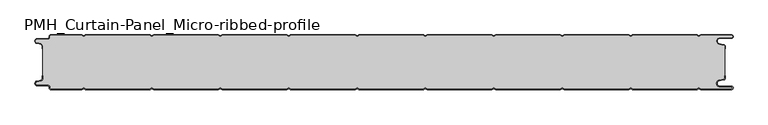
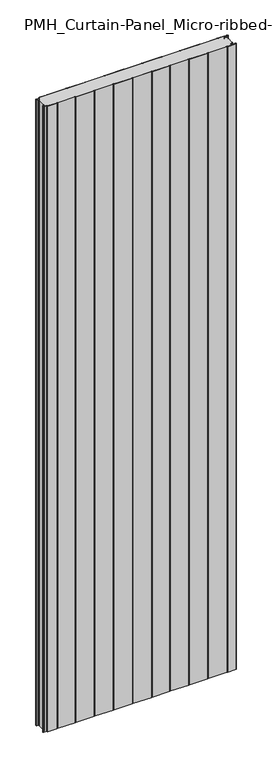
"""IFC4 building model written with IfcOpenShell, lengths in millimetres: plate geometry, PMH_Curtain-Panel_Micro-ribbed-profile : ACH_PMH_Acoustic-Sectioning-Panel_80M."""

from ifc_helpers import new_model, si_unit, point, frame_2d, origin, origin_with_axes, place, context, project, spatial, polyline, circle_curve, trimmed, segment, composite_curve, outline, extrude, source, transform, mapped, element, save


def pmh_curtain_panel_micro_ribbed_profile_d39909f0(model_context):
    return source(origin(), model_context, "Body", "SweptSolid", [
        extrude(outline(composite_curve([segment(polyline([(-500.0, 15.878557), (-500.0, 20.0), (-499.2, 20.0), (-499.2, 15.878557)]), True, "CONTINUOUS"), segment(trimmed(circle_curve(frame_2d((-502.0, 15.878557)), 2.8), [point((-499.2, 15.878557))], [point((-501.370137, 13.1503208))], False, "CARTESIAN"), True, "CONTINUOUS"), segment(polyline([(-501.370137, 13.1503208), (-507.529863, 11.728236)]), True, "CONTINUOUS"), segment(trimmed(circle_curve(frame_2d((-506.9, 9.0)), 2.8), [point((-507.529863, 11.728236))], [point((-506.9, 6.2))], True, "CARTESIAN"), True, "CONTINUOUS"), segment(polyline([(-506.9, 6.2), (-491.4, 6.2)]), True, "CONTINUOUS"), segment(trimmed(circle_curve(frame_2d((-491.4, 3.4)), 2.8), [point((-491.4, 6.2))], [point((-488.6, 3.4))], False, "CARTESIAN"), True, "CONTINUOUS"), segment(polyline([(-488.6, 3.4), (-488.6, 2.0)]), True, "CONTINUOUS"), segment(trimmed(circle_curve(frame_2d((-487.4, 2.0)), 1.2), [point((-488.6, 2.0))], [point((-487.4, 0.8))], True, "CARTESIAN"), True, "CONTINUOUS"), segment(polyline([(-487.4, 0.8), (-442.3143588, 0.8), (-439.4, 2.482606), (-436.4856412, 0.8), (-342.3143588, 0.8), (-339.4, 2.482606), (-336.4856412, 0.8), (-242.3143588, 0.8), (-239.4, 2.482606), (-236.4856412, 0.8), (-142.3143588, 0.8), (-139.4, 2.482606), (-136.4856412, 0.8), (-42.3143588, 0.8), (-39.4, 2.482606), (-36.4856412, 0.8), (57.6856412, 0.8), (60.6, 2.482606), (63.5143588, 0.8), (157.6856412, 0.8), (160.6, 2.482606), (163.5143588, 0.8), (257.6856412, 0.8), (260.6, 2.482606), (263.5143588, 0.8), (357.6856412, 0.8), (360.6, 2.482606), (363.5143588, 0.8), (457.6856412, 0.8), (460.6, 2.482606), (463.5143588, 0.8), (508.1, 0.8)]), True, "CONTINUOUS"), segment(trimmed(circle_curve(frame_2d((508.1, 2.5)), 1.7), [point((508.1, 0.8))], [point((508.1, 4.2))], True, "CARTESIAN"), True, "CONTINUOUS"), segment(polyline([(508.1, 4.2), (491.1, 4.2)]), True, "CONTINUOUS"), segment(trimmed(circle_curve(frame_2d((491.1, 9.0)), 4.8), [point((491.1, 4.2))], [point((490.2664884, 13.7270771))], False, "CARTESIAN"), True, "CONTINUOUS"), segment(polyline([(490.2664884, 13.7270771), (496.7125669, 14.8636953)]), True, "CONTINUOUS"), segment(trimmed(circle_curve(frame_2d((496.4, 16.6363492)), 1.8), [point((496.7125669, 14.8636953))], [point((498.2, 16.6363492))], True, "CARTESIAN"), True, "CONTINUOUS"), segment(polyline([(498.2, 16.6363492), (498.2, 20.0), (499.0, 20.0), (499.0, 16.6363492)]), True, "CONTINUOUS"), segment(trimmed(circle_curve(frame_2d((496.4, 16.6363492)), 2.6), [point((499.0, 16.6363492))], [point((496.8514855, 14.0758491))], False, "CARTESIAN"), True, "CONTINUOUS"), segment(polyline([(496.8514855, 14.0758491), (490.405407, 12.939231)]), True, "CONTINUOUS"), segment(trimmed(circle_curve(frame_2d((491.1, 9.0)), 4.0), [point((490.405407, 12.939231))], [point((491.1, 5.0))], True, "CARTESIAN"), True, "CONTINUOUS"), segment(polyline([(491.1, 5.0), (508.1, 5.0)]), True, "CONTINUOUS"), segment(trimmed(circle_curve(frame_2d((508.1, 2.5)), 2.5), [point((508.1, 5.0))], [point((508.1, 0.0))], False, "CARTESIAN"), True, "CONTINUOUS"), segment(polyline([(508.1, 0.0), (463.2999995, 0.0), (460.6, 1.5588455), (457.9000005, 0.0), (363.2999995, 0.0), (360.6, 1.5588455), (357.9000005, 0.0), (263.2999995, 0.0), (260.6, 1.5588455), (257.9000005, 0.0), (163.2999995, 0.0), (160.6, 1.5588455), (157.9000005, 0.0), (63.2999995, 0.0), (60.6, 1.5588455), (57.9000005, 0.0), (-36.7000005, 0.0), (-39.4, 1.5588455), (-42.0999995, 0.0), (-136.7000005, 0.0), (-139.4, 1.5588455), (-142.0999995, 0.0), (-236.7000005, 0.0), (-239.4, 1.5588455), (-242.0999995, 0.0), (-336.7000005, 0.0), (-339.4, 1.5588455), (-342.0999995, 0.0), (-436.7000005, 0.0), (-439.4, 1.5588455), (-442.0999995, 0.0), (-487.4, 0.0)]), True, "CONTINUOUS"), segment(trimmed(circle_curve(frame_2d((-487.4, 2.0)), 2.0), [point((-487.4, 0.0))], [point((-489.4, 2.0))], False, "CARTESIAN"), True, "CONTINUOUS"), segment(polyline([(-489.4, 2.0), (-489.4, 3.4)]), True, "CONTINUOUS"), segment(trimmed(circle_curve(frame_2d((-491.4, 3.4)), 2.0), [point((-489.4, 3.4))], [point((-491.4, 5.4))], True, "CARTESIAN"), True, "CONTINUOUS"), segment(polyline([(-491.4, 5.4), (-506.9, 5.4)]), True, "CONTINUOUS"), segment(trimmed(circle_curve(frame_2d((-506.9, 9.0)), 3.6), [point((-506.9, 5.4))], [point((-507.7098239, 12.5077322))], False, "CARTESIAN"), True, "CONTINUOUS"), segment(polyline([(-507.7098239, 12.5077322), (-501.5500979, 13.929817)]), True, "CONTINUOUS"), segment(trimmed(circle_curve(frame_2d((-502.0, 15.878557)), 2.0), [point((-501.5500979, 13.929817))], [point((-500.0, 15.878557))], True, "CARTESIAN"), True, "CONTINUOUS")], self_intersect=False)), origin_with_axes(), (0.0, 0.0, 1.0), 3500.0),
        extrude(outline(composite_curve([segment(trimmed(circle_curve(frame_2d((-502.0, 64.1214426)), 2.8), [point((-499.2, 64.1214426))], [point((-501.370137, 66.8496788))], True, "CARTESIAN"), True, "CONTINUOUS"), segment(polyline([(-501.370137, 66.8496788), (-507.5298631, 68.2717638)]), True, "CONTINUOUS"), segment(trimmed(circle_curve(frame_2d((-506.9, 71.0)), 2.8), [point((-507.5298631, 68.2717638))], [point((-506.9, 73.8))], False, "CARTESIAN"), True, "CONTINUOUS"), segment(polyline([(-506.9, 73.8), (-491.4000001, 73.8)]), True, "CONTINUOUS"), segment(trimmed(circle_curve(frame_2d((-491.4000001, 76.6)), 2.8), [point((-491.4000001, 73.8))], [point((-488.6000001, 76.6))], True, "CARTESIAN"), True, "CONTINUOUS"), segment(polyline([(-488.6000001, 76.6), (-488.6000001, 78.0)]), True, "CONTINUOUS"), segment(trimmed(circle_curve(frame_2d((-487.4000001, 78.0)), 1.2), [point((-488.6000001, 78.0))], [point((-487.4000001, 79.2))], False, "CARTESIAN"), True, "CONTINUOUS"), segment(polyline([(-487.4000001, 79.2), (-442.3143589, 79.2), (-439.4000001, 77.517394), (-436.4856412, 79.2), (-342.3143589, 79.2), (-339.4000001, 77.517394), (-336.4856412, 79.2), (-242.3143589, 79.2), (-239.4000001, 77.517394), (-236.4856412, 79.2), (-142.3143589, 79.2), (-139.4000001, 77.517394), (-136.4856412, 79.2), (-42.3143589, 79.2), (-39.4000001, 77.517394), (-36.4856412, 79.2), (57.6856411, 79.2), (60.5999999, 77.517394), (63.5143588, 79.2), (157.6856411, 79.2), (160.5999999, 77.517394), (163.5143588, 79.2), (257.6856411, 79.2), (260.5999999, 77.517394), (263.5143588, 79.2), (357.6856411, 79.2), (360.5999999, 77.517394), (363.5143588, 79.2), (457.6856411, 79.2), (460.5999999, 77.517394), (463.5143588, 79.2), (508.0999999, 79.2)]), True, "CONTINUOUS"), segment(trimmed(circle_curve(frame_2d((508.0999999, 77.5)), 1.7), [point((508.0999999, 79.2))], [point((508.0999999, 75.8))], False, "CARTESIAN"), True, "CONTINUOUS"), segment(polyline([(508.0999999, 75.8), (491.0999999, 75.8)]), True, "CONTINUOUS"), segment(trimmed(circle_curve(frame_2d((491.0999999, 71.0)), 4.8), [point((491.0999999, 75.8))], [point((490.2664883, 66.2729229))], True, "CARTESIAN"), True, "CONTINUOUS"), segment(polyline([(490.2664883, 66.2729229), (496.7125668, 65.1363047)]), True, "CONTINUOUS"), segment(trimmed(circle_curve(frame_2d((496.3999999, 63.3636508)), 1.8), [point((496.7125668, 65.1363047))], [point((498.1999999, 63.3636508))], False, "CARTESIAN"), True, "CONTINUOUS"), segment(polyline([(498.1999999, 63.3636508), (498.1999999, 16.6363492)]), True, "CONTINUOUS"), segment(trimmed(circle_curve(frame_2d((496.3999999, 16.6363492)), 1.8), [point((498.1999999, 16.6363492))], [point((496.7125668, 14.8636953))], False, "CARTESIAN"), True, "CONTINUOUS"), segment(polyline([(496.7125668, 14.8636953), (490.2664883, 13.7270771)]), True, "CONTINUOUS"), segment(trimmed(circle_curve(frame_2d((491.0999999, 9.0)), 4.8), [point((490.2664883, 13.7270771))], [point((491.0999999, 4.2))], True, "CARTESIAN"), True, "CONTINUOUS"), segment(polyline([(491.0999999, 4.2), (508.0999999, 4.2)]), True, "CONTINUOUS"), segment(trimmed(circle_curve(frame_2d((508.0999999, 2.5)), 1.7), [point((508.0999999, 4.2))], [point((508.0999999, 0.8))], False, "CARTESIAN"), True, "CONTINUOUS"), segment(polyline([(508.0999999, 0.8), (463.5143588, 0.8), (460.5999999, 2.482606), (457.6856411, 0.8), (363.5143588, 0.8), (360.5999999, 2.482606), (357.6856411, 0.8), (263.5143588, 0.8), (260.5999999, 2.482606), (257.6856411, 0.8), (163.5143588, 0.8), (160.5999999, 2.482606), (157.6856411, 0.8), (63.5143588, 0.8), (60.5999999, 2.482606), (57.6856411, 0.8), (-36.4856412, 0.8), (-39.4000001, 2.482606), (-42.3143589, 0.8), (-136.4856412, 0.8), (-139.4000001, 2.482606), (-142.3143589, 0.8), (-236.4856412, 0.8), (-239.4000001, 2.482606), (-242.3143589, 0.8), (-336.4856412, 0.8), (-339.4000001, 2.482606), (-342.3143589, 0.8), (-436.4856412, 0.8), (-439.4000001, 2.482606), (-442.3143589, 0.8), (-487.4000001, 0.8)]), True, "CONTINUOUS"), segment(trimmed(circle_curve(frame_2d((-487.4000001, 2.0)), 1.2), [point((-487.4000001, 0.8))], [point((-488.6000001, 2.0))], False, "CARTESIAN"), True, "CONTINUOUS"), segment(polyline([(-488.6000001, 2.0), (-488.6000001, 3.4)]), True, "CONTINUOUS"), segment(trimmed(circle_curve(frame_2d((-491.4000001, 3.4)), 2.8), [point((-488.6000001, 3.4))], [point((-491.4000001, 6.2))], True, "CARTESIAN"), True, "CONTINUOUS"), segment(polyline([(-491.4000001, 6.2), (-506.9, 6.2)]), True, "CONTINUOUS"), segment(trimmed(circle_curve(frame_2d((-506.9, 9.0)), 2.8), [point((-506.9, 6.2))], [point((-507.5298631, 11.7282362))], False, "CARTESIAN"), True, "CONTINUOUS"), segment(polyline([(-507.5298631, 11.7282362), (-501.370137, 13.1503212)]), True, "CONTINUOUS"), segment(trimmed(circle_curve(frame_2d((-502.0, 15.8785573)), 2.8), [point((-501.370137, 13.1503212))], [point((-499.2, 15.8785573))], True, "CARTESIAN"), True, "CONTINUOUS"), segment(polyline([(-499.2, 15.8785573), (-499.2, 64.1214426)]), True, "CONTINUOUS")], self_intersect=False)), origin_with_axes(), (0.0, 0.0, 1.0), 3500.0),
        extrude(outline(composite_curve([segment(trimmed(circle_curve(frame_2d((-502.0, 64.121443)), 2.0), [point((-500.0, 64.121443))], [point((-501.5500978, 66.0701831))], True, "CARTESIAN"), True, "CONTINUOUS"), segment(polyline([(-501.5500978, 66.0701831), (-507.7098239, 67.492268)]), True, "CONTINUOUS"), segment(trimmed(circle_curve(frame_2d((-506.9, 71.0)), 3.6), [point((-507.7098239, 67.492268))], [point((-506.9, 74.6))], False, "CARTESIAN"), True, "CONTINUOUS"), segment(polyline([(-506.9, 74.6), (-491.4, 74.6)]), True, "CONTINUOUS"), segment(trimmed(circle_curve(frame_2d((-491.4, 76.6)), 2.0), [point((-491.4, 74.6))], [point((-489.4, 76.6))], True, "CARTESIAN"), True, "CONTINUOUS"), segment(polyline([(-489.4, 76.6), (-489.4, 78.0)]), True, "CONTINUOUS"), segment(trimmed(circle_curve(frame_2d((-487.4, 78.0)), 2.0), [point((-489.4, 78.0))], [point((-487.4, 80.0))], False, "CARTESIAN"), True, "CONTINUOUS"), segment(polyline([(-487.4, 80.0), (-442.0999995, 80.0), (-439.4, 78.4411545), (-436.7000005, 80.0), (-342.0999995, 80.0), (-339.4, 78.4411545), (-336.7000005, 80.0), (-242.0999995, 80.0), (-239.4, 78.4411545), (-236.7000005, 80.0), (-142.0999995, 80.0), (-139.4, 78.4411545), (-136.7000005, 80.0), (-42.0999995, 80.0), (-39.4, 78.4411545), (-36.7000005, 80.0), (57.9000005, 80.0), (60.6, 78.4411545), (63.2999995, 80.0), (157.9000005, 80.0), (160.6, 78.4411545), (163.2999995, 80.0), (257.9000005, 80.0), (260.6, 78.4411545), (263.2999995, 80.0), (357.9000005, 80.0), (360.6, 78.4411545), (363.2999995, 80.0), (457.9000005, 80.0), (460.6, 78.4411545), (463.2999995, 80.0), (508.1, 80.0)]), True, "CONTINUOUS"), segment(trimmed(circle_curve(frame_2d((508.1, 77.5)), 2.5), [point((508.1, 80.0))], [point((508.1, 75.0))], False, "CARTESIAN"), True, "CONTINUOUS"), segment(polyline([(508.1, 75.0), (491.1, 75.0)]), True, "CONTINUOUS"), segment(trimmed(circle_curve(frame_2d((491.1, 71.0)), 4.0), [point((491.1, 75.0))], [point((490.405407, 67.060769))], True, "CARTESIAN"), True, "CONTINUOUS"), segment(polyline([(490.405407, 67.060769), (496.8514855, 65.9241509)]), True, "CONTINUOUS"), segment(trimmed(circle_curve(frame_2d((496.4, 63.3636508)), 2.6), [point((496.8514855, 65.9241509))], [point((499.0, 63.3636508))], False, "CARTESIAN"), True, "CONTINUOUS"), segment(polyline([(499.0, 63.3636508), (499.0, 60.0), (498.2, 60.0), (498.2, 63.3636508)]), True, "CONTINUOUS"), segment(trimmed(circle_curve(frame_2d((496.4, 63.3636508)), 1.8), [point((498.2, 63.3636508))], [point((496.7125669, 65.1363047))], True, "CARTESIAN"), True, "CONTINUOUS"), segment(polyline([(496.7125669, 65.1363047), (490.2664884, 66.2729228)]), True, "CONTINUOUS"), segment(trimmed(circle_curve(frame_2d((491.1, 71.0)), 4.8), [point((490.2664884, 66.2729228))], [point((491.1, 75.8))], False, "CARTESIAN"), True, "CONTINUOUS"), segment(polyline([(491.1, 75.8), (508.1, 75.8)]), True, "CONTINUOUS"), segment(trimmed(circle_curve(frame_2d((508.1, 77.5)), 1.7), [point((508.1, 75.8))], [point((508.1, 79.2))], True, "CARTESIAN"), True, "CONTINUOUS"), segment(polyline([(508.1, 79.2), (463.5143588, 79.2), (460.6, 77.517394), (457.6856412, 79.2), (363.5143588, 79.2), (360.6, 77.517394), (357.6856412, 79.2), (263.5143588, 79.2), (260.6, 77.517394), (257.6856412, 79.2), (163.5143588, 79.2), (160.6, 77.517394), (157.6856412, 79.2), (63.5143588, 79.2), (60.6, 77.517394), (57.6856412, 79.2), (-36.4856412, 79.2), (-39.4, 77.517394), (-42.3143588, 79.2), (-136.4856412, 79.2), (-139.4, 77.517394), (-142.3143588, 79.2), (-236.4856412, 79.2), (-239.4, 77.517394), (-242.3143588, 79.2), (-336.4856412, 79.2), (-339.4, 77.517394), (-342.3143588, 79.2), (-436.4856412, 79.2), (-439.4, 77.517394), (-442.3143588, 79.2), (-487.4, 79.2)]), True, "CONTINUOUS"), segment(trimmed(circle_curve(frame_2d((-487.4, 78.0)), 1.2), [point((-487.4, 79.2))], [point((-488.6, 78.0))], True, "CARTESIAN"), True, "CONTINUOUS"), segment(polyline([(-488.6, 78.0), (-488.6, 76.6)]), True, "CONTINUOUS"), segment(trimmed(circle_curve(frame_2d((-491.4, 76.6)), 2.8), [point((-488.6, 76.6))], [point((-491.4, 73.8))], False, "CARTESIAN"), True, "CONTINUOUS"), segment(polyline([(-491.4, 73.8), (-506.9, 73.8)]), True, "CONTINUOUS"), segment(trimmed(circle_curve(frame_2d((-506.9, 71.0)), 2.8), [point((-506.9, 73.8))], [point((-507.529863, 68.2717638))], True, "CARTESIAN"), True, "CONTINUOUS"), segment(polyline([(-507.529863, 68.2717638), (-501.370137, 66.849679)]), True, "CONTINUOUS"), segment(trimmed(circle_curve(frame_2d((-502.0, 64.121443)), 2.8), [point((-501.370137, 66.849679))], [point((-499.2, 64.121443))], False, "CARTESIAN"), True, "CONTINUOUS"), segment(polyline([(-499.2, 64.121443), (-499.2, 60.0), (-500.0, 60.0), (-500.0, 64.121443)]), True, "CONTINUOUS")], self_intersect=False)), origin_with_axes(), (0.0, 0.0, 1.0), 3500.0),
    ])


if __name__ == "__main__":
    model = new_model("IFC4")
    model_context = context("Model", 3, world=origin())
    ifc_project = project(units=[si_unit("LENGTHUNIT", "METRE", prefix="MILLI")], contexts=[model_context])
    site = spatial("IfcSite", under=ifc_project)
    building = spatial("IfcBuilding", under=site)
    placement = place(None, origin())
    pmh_curtain_panel_micro_ribbed_profile_shape = pmh_curtain_panel_micro_ribbed_profile_d39909f0(model_context)
    element("IfcPlate", 1, ObjectType="PMH_Curtain-Panel_Micro-ribbed-profile : ACH_PMH_Acoustic-Sectioning-Panel_80M", at=placement, inside=building, context=model_context, shape_type="MappedRepresentation", body=[
        mapped(pmh_curtain_panel_micro_ribbed_profile_shape, transform((0.0, 0.0, 0.0), x_axis=(1.0, 0.0, 0.0), y_axis=(0.0, 1.0, 0.0), z_axis=(0.0, 0.0, 1.0))),
    ])
    save(model, "model.ifc")
